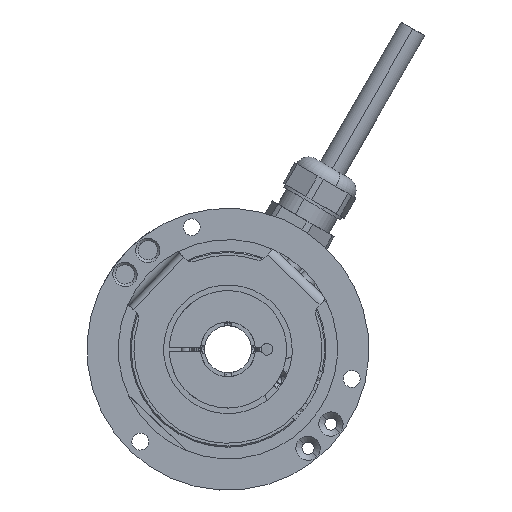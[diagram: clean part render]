
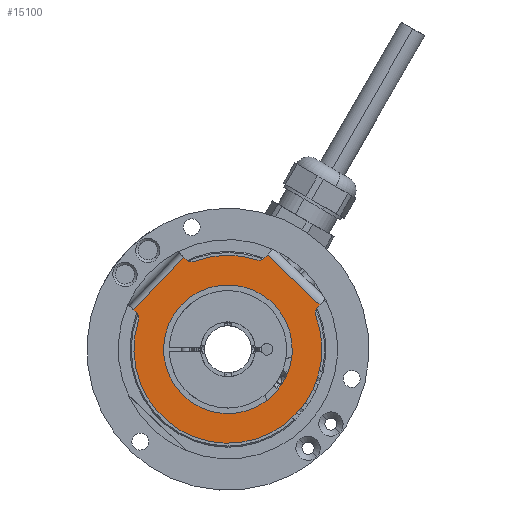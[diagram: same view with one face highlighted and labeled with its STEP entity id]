
A CAD part, left-side view. The second image highlights one B-rep face of the part: STEP entity #15100.
In plain terms, the highlighted planar face has unit normal (-1, 0, 0).
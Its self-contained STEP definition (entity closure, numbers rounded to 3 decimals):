
#6276 = CARTESIAN_POINT ( 'NONE',  ( -2.2, -17.409, -16.521 ) ) ;
#6328 = CARTESIAN_POINT ( 'NONE',  ( -2.2, -11.914, -11.306 ) ) ;
#6334 = CARTESIAN_POINT ( 'NONE',  ( -2.2, -22.427, 8.547 ) ) ;
#6335 = DIRECTION ( 'NONE',  ( 0., 0.725, 0.688 ) ) ;
#6337 = DIRECTION ( 'NONE',  ( -1., 0., 0. ) ) ;
#6338 = CARTESIAN_POINT ( 'NONE',  ( -2.2, 0., 0. ) ) ;
#6339 = AXIS2_PLACEMENT_3D ( 'NONE', #6338, #6337, #6335 ) ;
#6340 = CIRCLE ( 'NONE', #6339, 24. ) ;
#6346 = CARTESIAN_POINT ( 'NONE',  ( -2.2, -22.845, 10.636 ) ) ;
#6349 = CARTESIAN_POINT ( 'NONE',  ( -2.2, 11.914, 11.306 ) ) ;
#6365 = DIRECTION ( 'NONE',  ( 0., 0.725, 0.688 ) ) ;
#6366 = DIRECTION ( 'NONE',  ( -1., 0., 0. ) ) ;
#6367 = CARTESIAN_POINT ( 'NONE',  ( -2.2, 0., 0. ) ) ;
#6368 = AXIS2_PLACEMENT_3D ( 'NONE', #6367, #6366, #6365 ) ;
#6372 = CIRCLE ( 'NONE', #6368, 16.425 ) ;
#6376 = VECTOR ( 'NONE', #6438, 1000. ) ;
#6377 = CARTESIAN_POINT ( 'NONE',  ( -2.2, -8.534, 22.431 ) ) ;
#6378 = DIRECTION ( 'NONE',  ( 0., 0.725, 0.688 ) ) ;
#6379 = DIRECTION ( 'NONE',  ( 1., 0., 0. ) ) ;
#6380 = CARTESIAN_POINT ( 'NONE',  ( -2.2, 24.747, 7.975 ) ) ;
#6381 = AXIS2_PLACEMENT_3D ( 'NONE', #6380, #6379, #6378 ) ;
#6382 = CIRCLE ( 'NONE', #6381, 2. ) ;
#6383 = LINE ( 'NONE', #6377, #6376 ) ;
#6384 = CARTESIAN_POINT ( 'NONE',  ( -2.2, -7.361, 22.843 ) ) ;
#6385 = CARTESIAN_POINT ( 'NONE',  ( -2.2, -23.506, 11.332 ) ) ;
#6390 = CARTESIAN_POINT ( 'NONE',  ( -2.2, 24.066, 10.086 ) ) ;
#6391 = DIRECTION ( 'NONE',  ( 0., -0.725, -0.688 ) ) ;
#6392 = VECTOR ( 'NONE', #6391, 1000. ) ;
#6393 = CARTESIAN_POINT ( 'NONE',  ( -2.2, 22.431, 8.534 ) ) ;
#6394 = LINE ( 'NONE', #6393, #6392 ) ;
#6397 = DIRECTION ( 'NONE',  ( 0., -0.688, 0.725 ) ) ;
#6398 = VECTOR ( 'NONE', #6397, 1000. ) ;
#6399 = CARTESIAN_POINT ( 'NONE',  ( -2.2, -21.954, 9.697 ) ) ;
#6400 = LINE ( 'NONE', #6399, #6398 ) ;
#6406 = CARTESIAN_POINT ( 'NONE',  ( -2.2, -9.425, 23.37 ) ) ;
#6418 = DIRECTION ( 'NONE',  ( 0., 0.725, 0.688 ) ) ;
#6419 = DIRECTION ( 'NONE',  ( -1., 0., 0. ) ) ;
#6420 = CARTESIAN_POINT ( 'NONE',  ( -2.2, 0., 0. ) ) ;
#6421 = AXIS2_PLACEMENT_3D ( 'NONE', #6420, #6419, #6418 ) ;
#6422 = CIRCLE ( 'NONE', #6421, 24. ) ;
#6425 = CARTESIAN_POINT ( 'NONE',  ( -2.2, 22.843, 7.361 ) ) ;
#6426 = DIRECTION ( 'NONE',  ( 0., 0.725, 0.688 ) ) ;
#6427 = DIRECTION ( 'NONE',  ( -1., 0., 0. ) ) ;
#6428 = CARTESIAN_POINT ( 'NONE',  ( -2.2, 0., 0. ) ) ;
#6429 = AXIS2_PLACEMENT_3D ( 'NONE', #6428, #6427, #6426 ) ;
#6430 = PLANE ( 'NONE',  #6429 ) ;
#6431 = FACE_BOUND ( 'NONE', #15157, .T. ) ;
#6432 = FACE_OUTER_BOUND ( 'NONE', #15101, .T. ) ;
#6438 = DIRECTION ( 'NONE',  ( 0., 0.688, -0.725 ) ) ;
#6477 = DIRECTION ( 'NONE',  ( 0., 0.725, 0.688 ) ) ;
#6478 = DIRECTION ( 'NONE',  ( -1., 0., 0. ) ) ;
#6479 = CARTESIAN_POINT ( 'NONE',  ( -2.2, 0., 0. ) ) ;
#6480 = AXIS2_PLACEMENT_3D ( 'NONE', #6479, #6478, #6477 ) ;
#6481 = CIRCLE ( 'NONE', #6480, 16.425 ) ;
#6482 = DIRECTION ( 'NONE',  ( 0., 0.688, -0.725 ) ) ;
#6483 = VECTOR ( 'NONE', #6482, 1000. ) ;
#6484 = CARTESIAN_POINT ( 'NONE',  ( -2.2, 24.066, 10.086 ) ) ;
#6485 = LINE ( 'NONE', #6484, #6483 ) ;
#6486 = DIRECTION ( 'NONE',  ( 0., 0.725, 0.688 ) ) ;
#6487 = VECTOR ( 'NONE', #6486, 1000. ) ;
#6488 = CARTESIAN_POINT ( 'NONE',  ( -2.2, -16.796, 17.699 ) ) ;
#6489 = LINE ( 'NONE', #6488, #6487 ) ;
#6490 = DIRECTION ( 'NONE',  ( 0., 0.725, 0.688 ) ) ;
#6491 = DIRECTION ( 'NONE',  ( 1., 0., 0. ) ) ;
#6492 = CARTESIAN_POINT ( 'NONE',  ( -2.2, -24.296, 9.259 ) ) ;
#6493 = AXIS2_PLACEMENT_3D ( 'NONE', #6492, #6491, #6490 ) ;
#6494 = CIRCLE ( 'NONE', #6493, 2. ) ;
#6496 = CARTESIAN_POINT ( 'NONE',  ( -2.2, 8.547, 22.427 ) ) ;
#6502 = CIRCLE ( 'NONE', #6564, 24. ) ;
#6503 = CARTESIAN_POINT ( 'NONE',  ( -2.2, -10.086, 24.066 ) ) ;
#6515 = DIRECTION ( 'NONE',  ( 0., 0.725, 0.688 ) ) ;
#6516 = DIRECTION ( 'NONE',  ( 1., 0., 0. ) ) ;
#6517 = CARTESIAN_POINT ( 'NONE',  ( -2.2, -7.975, 24.747 ) ) ;
#6518 = AXIS2_PLACEMENT_3D ( 'NONE', #6517, #6516, #6515 ) ;
#6519 = CIRCLE ( 'NONE', #6518, 2. ) ;
#6520 = DIRECTION ( 'NONE',  ( 0., 0.725, 0.688 ) ) ;
#6521 = VECTOR ( 'NONE', #6520, 1000. ) ;
#6522 = CARTESIAN_POINT ( 'NONE',  ( -2.2, 9.697, 21.954 ) ) ;
#6523 = LINE ( 'NONE', #6522, #6521 ) ;
#6524 = CARTESIAN_POINT ( 'NONE',  ( -2.2, 11.332, 23.506 ) ) ;
#6525 = DIRECTION ( 'NONE',  ( 0., 0.725, 0.688 ) ) ;
#6526 = DIRECTION ( 'NONE',  ( 1., 0., 0. ) ) ;
#6527 = CARTESIAN_POINT ( 'NONE',  ( -2.2, 9.259, 24.296 ) ) ;
#6528 = AXIS2_PLACEMENT_3D ( 'NONE', #6527, #6526, #6525 ) ;
#6529 = CIRCLE ( 'NONE', #6528, 2. ) ;
#6530 = CARTESIAN_POINT ( 'NONE',  ( -2.2, 10.636, 22.845 ) ) ;
#6560 = CARTESIAN_POINT ( 'NONE',  ( -2.2, 23.37, 9.425 ) ) ;
#6561 = DIRECTION ( 'NONE',  ( 0., 0.725, 0.688 ) ) ;
#6562 = DIRECTION ( 'NONE',  ( -1., 0., 0. ) ) ;
#6563 = CARTESIAN_POINT ( 'NONE',  ( -2.2, 0., 0. ) ) ;
#6564 = AXIS2_PLACEMENT_3D ( 'NONE', #6563, #6562, #6561 ) ;
#15041 = VERTEX_POINT ( 'NONE', #6276 ) ;
#15043 = EDGE_CURVE ( 'NONE', #15041, #15044, #6340, .T. ) ;
#15044 = VERTEX_POINT ( 'NONE', #6334 ) ;
#15048 = VERTEX_POINT ( 'NONE', #6328 ) ;
#15060 = EDGE_CURVE ( 'NONE', #15048, #15071, #6372, .T. ) ;
#15071 = VERTEX_POINT ( 'NONE', #6349 ) ;
#15077 = VERTEX_POINT ( 'NONE', #6346 ) ;
#15079 = VERTEX_POINT ( 'NONE', #6406 ) ;
#15081 = ORIENTED_EDGE ( 'NONE', *, *, #15139, .T. ) ;
#15083 = ORIENTED_EDGE ( 'NONE', *, *, #15150, .T. ) ;
#15084 = EDGE_CURVE ( 'NONE', #15077, #15093, #6400, .T. ) ;
#15086 = ORIENTED_EDGE ( 'NONE', *, *, #15140, .F. ) ;
#15088 = ORIENTED_EDGE ( 'NONE', *, *, #15096, .T. ) ;
#15089 = EDGE_CURVE ( 'NONE', #15091, #15164, #6394, .T. ) ;
#15090 = ORIENTED_EDGE ( 'NONE', *, *, #15163, .T. ) ;
#15091 = VERTEX_POINT ( 'NONE', #6390 ) ;
#15093 = VERTEX_POINT ( 'NONE', #6385 ) ;
#15094 = VERTEX_POINT ( 'NONE', #6384 ) ;
#15096 = EDGE_CURVE ( 'NONE', #15164, #15102, #6382, .T. ) ;
#15097 = EDGE_CURVE ( 'NONE', #15162, #15079, #6383, .T. ) ;
#15099 = ORIENTED_EDGE ( 'NONE', *, *, #15043, .T. ) ;
#15100 = ADVANCED_FACE ( 'NONE', ( #6432, #6431 ), #6430, .T. ) ;
#15101 = EDGE_LOOP ( 'NONE', ( #15105, #15099, #15149, #15152, #15137, #15135, #15146, #15090, #15083, #15145, #15081, #15151, #15088 ) ) ;
#15102 = VERTEX_POINT ( 'NONE', #6425 ) ;
#15105 = ORIENTED_EDGE ( 'NONE', *, *, #15106, .T. ) ;
#15106 = EDGE_CURVE ( 'NONE', #15102, #15041, #6422, .T. ) ;
#15134 = VERTEX_POINT ( 'NONE', #6496 ) ;
#15135 = ORIENTED_EDGE ( 'NONE', *, *, #15097, .T. ) ;
#15136 = EDGE_CURVE ( 'NONE', #15044, #15077, #6494, .T. ) ;
#15137 = ORIENTED_EDGE ( 'NONE', *, *, #15138, .T. ) ;
#15138 = EDGE_CURVE ( 'NONE', #15093, #15162, #6489, .T. ) ;
#15139 = EDGE_CURVE ( 'NONE', #15154, #15091, #6485, .T. ) ;
#15140 = EDGE_CURVE ( 'NONE', #15071, #15048, #6481, .T. ) ;
#15145 = ORIENTED_EDGE ( 'NONE', *, *, #15155, .T. ) ;
#15146 = ORIENTED_EDGE ( 'NONE', *, *, #15156, .T. ) ;
#15148 = VERTEX_POINT ( 'NONE', #6530 ) ;
#15149 = ORIENTED_EDGE ( 'NONE', *, *, #15136, .T. ) ;
#15150 = EDGE_CURVE ( 'NONE', #15134, #15148, #6529, .T. ) ;
#15151 = ORIENTED_EDGE ( 'NONE', *, *, #15089, .T. ) ;
#15152 = ORIENTED_EDGE ( 'NONE', *, *, #15084, .T. ) ;
#15154 = VERTEX_POINT ( 'NONE', #6524 ) ;
#15155 = EDGE_CURVE ( 'NONE', #15148, #15154, #6523, .T. ) ;
#15156 = EDGE_CURVE ( 'NONE', #15079, #15094, #6519, .T. ) ;
#15157 = EDGE_LOOP ( 'NONE', ( #15158, #15086 ) ) ;
#15158 = ORIENTED_EDGE ( 'NONE', *, *, #15060, .F. ) ;
#15162 = VERTEX_POINT ( 'NONE', #6503 ) ;
#15163 = EDGE_CURVE ( 'NONE', #15094, #15134, #6502, .T. ) ;
#15164 = VERTEX_POINT ( 'NONE', #6560 ) ;
